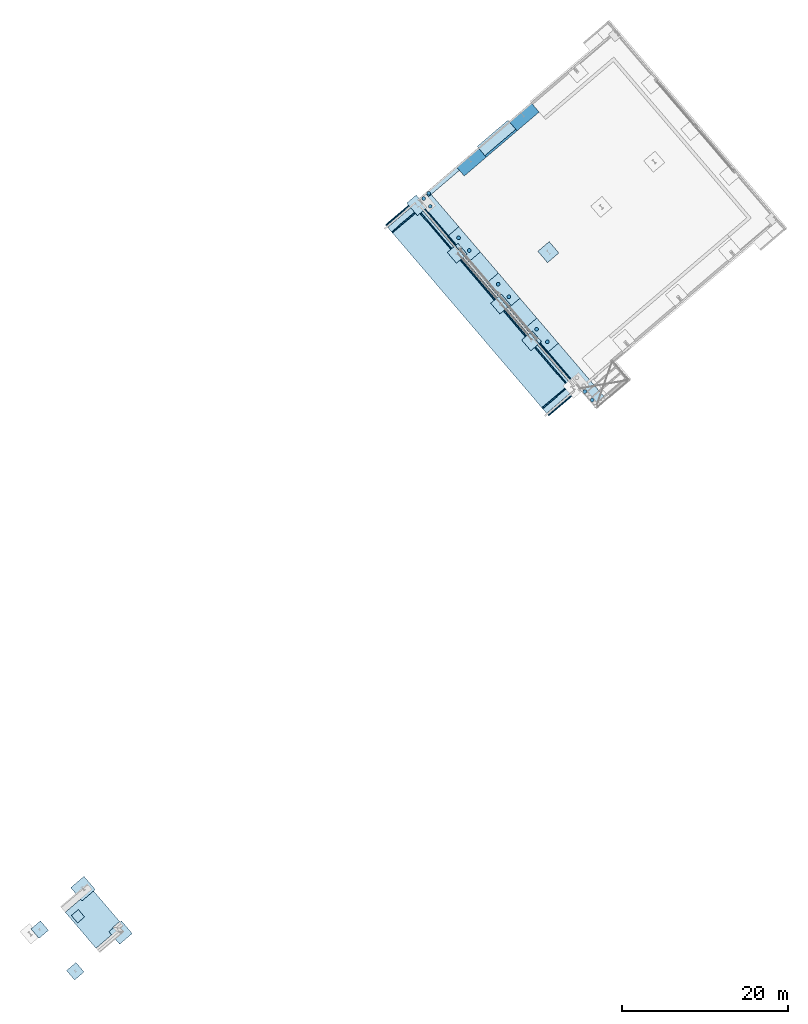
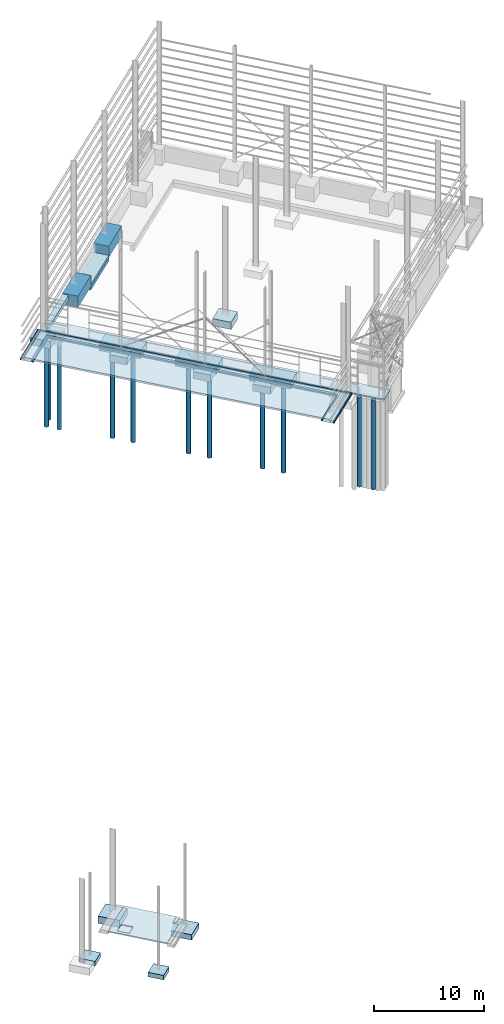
# One storey, part 35 of 41: 36 slabs, 1 opening.
"""IFC2X3 building model written with IfcOpenShell, lengths in millimetres."""

from ifc_helpers import new_model, entity, si_unit, converted_unit, derived_unit, direction, frame, frame_2d, origin, origin_2d_with_axis, place, context, subcontext, project, spatial, polyline, rectangle, circle, outline, extrude, material, layer, layer_set, layer_usage, type_object, element, save


model = new_model("IFC2X3")

# Units and contexts
model_context = context("Model", 3, precision=0.01, world=origin(), true_north=direction((6.123031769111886e-17, 1.0)))
body_context = subcontext(model_context, "Body", "Model", "MODEL_VIEW")
ifc_project = project(units=[si_unit("LENGTHUNIT", "METRE", prefix="MILLI"), si_unit("AREAUNIT", "SQUARE_METRE"), si_unit("VOLUMEUNIT", "CUBIC_METRE"), converted_unit("PLANEANGLEUNIT", "DEGREE", entity("IfcRatioMeasure", 0.017453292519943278), si_unit("PLANEANGLEUNIT", "RADIAN"), dimensions=[0, 0, 0, 0, 0, 0, 0]), si_unit("MASSUNIT", "GRAM", prefix="KILO"), derived_unit("MASSDENSITYUNIT", [(si_unit("MASSUNIT", "GRAM", prefix="KILO"), 1), (si_unit("LENGTHUNIT", "METRE"), -3)]), derived_unit("MOMENTOFINERTIAUNIT", [(si_unit("LENGTHUNIT", "METRE"), 4)]), si_unit("TIMEUNIT", "SECOND"), si_unit("FREQUENCYUNIT", "HERTZ"), si_unit("THERMODYNAMICTEMPERATUREUNIT", "DEGREE_CELSIUS"), derived_unit("THERMALTRANSMITTANCEUNIT", [(si_unit("MASSUNIT", "GRAM", prefix="KILO"), 1), (si_unit("THERMODYNAMICTEMPERATUREUNIT", "KELVIN"), -1), (si_unit("TIMEUNIT", "SECOND"), -3)]), derived_unit("VOLUMETRICFLOWRATEUNIT", [(si_unit("LENGTHUNIT", "METRE"), 3), (si_unit("TIMEUNIT", "SECOND"), -1)]), derived_unit("MASSFLOWRATEUNIT", [(si_unit("MASSUNIT", "GRAM", prefix="KILO"), 1), (si_unit("TIMEUNIT", "SECOND"), -1)]), derived_unit("ROTATIONALFREQUENCYUNIT", [(si_unit("TIMEUNIT", "SECOND"), -1)]), si_unit("ELECTRICCURRENTUNIT", "AMPERE"), si_unit("ELECTRICVOLTAGEUNIT", "VOLT"), si_unit("POWERUNIT", "WATT"), si_unit("FORCEUNIT", "NEWTON", prefix="KILO"), si_unit("ILLUMINANCEUNIT", "LUX"), si_unit("LUMINOUSFLUXUNIT", "LUMEN"), si_unit("LUMINOUSINTENSITYUNIT", "CANDELA"), derived_unit("USERDEFINED", [(si_unit("MASSUNIT", "GRAM", prefix="KILO"), -1), (si_unit("LENGTHUNIT", "METRE"), -2), (si_unit("TIMEUNIT", "SECOND"), 3), (si_unit("LUMINOUSFLUXUNIT", "LUMEN"), 1)]), derived_unit("SOUNDPOWERUNIT", [(si_unit("MASSUNIT", "GRAM", prefix="KILO"), 1), (si_unit("LENGTHUNIT", "METRE"), 2), (si_unit("TIMEUNIT", "SECOND"), -3)]), derived_unit("LINEARVELOCITYUNIT", [(si_unit("LENGTHUNIT", "METRE"), 1), (si_unit("TIMEUNIT", "SECOND"), -1)]), si_unit("PRESSUREUNIT", "PASCAL"), derived_unit("USERDEFINED", [(si_unit("LENGTHUNIT", "METRE"), -2), (si_unit("MASSUNIT", "GRAM", prefix="KILO"), 1), (si_unit("TIMEUNIT", "SECOND"), -2)]), derived_unit("LINEARFORCEUNIT", [(si_unit("MASSUNIT", "GRAM", prefix="KILO"), 1), (si_unit("LENGTHUNIT", "METRE"), 1), (si_unit("TIMEUNIT", "SECOND"), -2), (si_unit("LENGTHUNIT", "METRE"), -1)]), derived_unit("PLANARFORCEUNIT", [(si_unit("MASSUNIT", "GRAM", prefix="KILO"), 1), (si_unit("LENGTHUNIT", "METRE"), 1), (si_unit("TIMEUNIT", "SECOND"), -2), (si_unit("LENGTHUNIT", "METRE"), -2)])], contexts=[model_context])

# Site, building, storey
site_placement = place(None, frame((962.4174930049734, -6014.433753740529, 0.0), z_axis=(0.0, 0.0, 1.0), x_axis=(0.7601792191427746, 0.649713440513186, 0.0)))
site = spatial("IfcSite", under=ifc_project, at=site_placement, Name="Default", CompositionType="ELEMENT")
building_placement = place(site_placement, origin())
building = spatial("IfcBuilding", under=site, at=building_placement, CompositionType="ELEMENT")
storey_placement = place(building_placement, origin())
storey = spatial("IfcBuildingStorey", under=building, at=storey_placement, Name="Datum", CompositionType="ELEMENT", Elevation=0.0)

# Slabs
ifc_material_1 = material(Name="GHD-Concrete-Concrete_InSitu")
ifc_layer_1 = layer(ifc_material_1, 200.0)
ifc_layer_set_1 = layer_set([ifc_layer_1], Name="Floor:FL-GHD-Cast In Situ - Concrete 200")
ifc_layer_usage_1 = layer_usage(ifc_layer_set_1, "AXIS3", "POSITIVE", 0.0)
slab_type_1 = type_object("IfcSlabType", Name="Floor:FL-GHD-Cast In Situ - Concrete 200", PredefinedType="FLOOR", material=ifc_layer_set_1)
slab_1_placement = place(building_placement, origin())
element("IfcSlab", 1, at=slab_1_placement, inside=storey, type_object=slab_type_1, material=ifc_layer_usage_1, Name="Floor:FL-GHD-Cast In Situ - Concrete 200", ObjectType="Floor:FL-GHD-Cast In Situ - Concrete 200", PredefinedType="FLOOR", context=body_context, shape_type="SweptSolid", body=[
    extrude(rectangle(XDim=28081.99999999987, YDim=4213.499999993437, at=frame_2d((0.0, 8.640199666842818e-12), x_axis=(1.0, 0.0))), frame((151645.71020470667, -11114.92808212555, 0.0), z_axis=(0.0, 0.0, -1.0), x_axis=(0.0, 1.0, 0.0)), (0.0, 0.0, 1.0), 200.0),
])
slab_type_2 = type_object("IfcSlabType", Name="FT-GHD-Pad:750x4000x1800", PredefinedType="BASESLAB", material=ifc_material_1)
slab_2_placement = place(building_placement, origin())
element("IfcSlab", 2, at=slab_2_placement, inside=storey, type_object=slab_type_2, Name="FT-GHD-Pad:750x4000x1800", ObjectType="FT-GHD-Pad:750x4000x1800", PredefinedType="BASESLAB", context=body_context, shape_type="SweptSolid", body=[
    extrude(rectangle(XDim=1800.0000000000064, YDim=3999.9999999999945, at=frame_2d((-300.0000000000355, -101.44583333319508), x_axis=(1.0, 0.0))), frame((154913.96020471, -3969.0364154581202, -1120.0), z_axis=(0.0, 0.0, 1.0), x_axis=(-1.0, 0.0, 0.0)), (0.0, 0.0, 1.0), 749.9999999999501),
])
slab_type_3 = type_object("IfcSlabType", Name="FT-GHD-Pad:750x4000x1800", PredefinedType="BASESLAB", material=ifc_material_1)
slab_3_placement = place(building_placement, origin())
element("IfcSlab", 3, at=slab_3_placement, inside=storey, type_object=slab_type_3, Name="FT-GHD-Pad:750x4000x1800", ObjectType="FT-GHD-Pad:750x4000x1800", PredefinedType="BASESLAB", context=body_context, shape_type="SweptSolid", body=[
    extrude(rectangle(XDim=1799.9999999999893, YDim=3999.9999999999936, at=frame_2d((-300.00000000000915, -339.9999999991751), x_axis=(1.0, 0.0))), frame((154913.96020471, -11561.928082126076, -1120.0), z_axis=(0.0, 0.0, 1.0), x_axis=(-1.0, 0.0, 0.0)), (0.0, 0.0, 1.0), 749.9999999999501),
])
slab_type_4 = type_object("IfcSlabType", Name="FT-GHD-Pad:750x4000x1800", PredefinedType="BASESLAB", material=ifc_material_1)
slab_4_placement = place(building_placement, origin())
element("IfcSlab", 4, at=slab_4_placement, inside=storey, type_object=slab_type_4, Name="FT-GHD-Pad:750x4000x1800", ObjectType="FT-GHD-Pad:750x4000x1800", PredefinedType="BASESLAB", context=body_context, shape_type="SweptSolid", body=[
    extrude(rectangle(XDim=1800.0000000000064, YDim=3999.9999999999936, at=frame_2d((-300.0000000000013, 109.57890841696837), x_axis=(1.0, 0.0))), frame((154913.9602047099, -18261.236673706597, -1120.0), z_axis=(0.0, 0.0, 1.0), x_axis=(-1.0, 0.0, 0.0)), (0.0, 0.0, 1.0), 749.9999999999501),
])
slab_type_5 = type_object("IfcSlabType", Name="FT-GHD-Pad:1500x2000x800", PredefinedType="BASESLAB", material=ifc_material_1)
slab_5_placement = place(building_placement, origin())
element("IfcSlab", 5, at=slab_5_placement, inside=storey, type_object=slab_type_5, Name="FT-GHD-Pad:1500x2000x800", ObjectType="FT-GHD-Pad:1500x2000x800", PredefinedType="BASESLAB", context=body_context, shape_type="SweptSolid", body=[
    extrude(rectangle(XDim=1500.0000000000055, YDim=1999.9999999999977, at=frame_2d((213.49999999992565, -88.41666667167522), x_axis=(1.0, 0.0))), frame((154152.46020470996, 3304.1552512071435, -1170.0), z_axis=(0.0, 0.0, 1.0), x_axis=(-1.0, 0.0, 0.0)), (0.0, 0.0, 1.0), 799.99999999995),
])
slab_type_6 = type_object("IfcSlabType", Name="FT-GHD-Pad:1700x1700x800", PredefinedType="BASESLAB", material=ifc_material_1)
slab_6_placement = place(building_placement, origin())
element("IfcSlab", 6, at=slab_6_placement, inside=storey, type_object=slab_type_6, Name="FT-GHD-Pad:1700x1700x800", ObjectType="FT-GHD-Pad:1700x1700x800", PredefinedType="BASESLAB", context=body_context, shape_type="SweptSolid", body=[
    extrude(outline(polyline([(-991.3333333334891, -516.6666666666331), (282.6666666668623, -516.6666666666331), (282.6666666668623, 233.33333333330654), (708.6666666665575, 233.33333333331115), (708.6666666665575, 283.3333333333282), (-991.3333333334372, 283.33333333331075), (-991.3333333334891, -516.6666666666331)])), frame((154031.29353804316, -5021.928082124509, -886.666666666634), z_axis=(0.0, 1.0, 0.0), x_axis=(1.0, 0.0, 0.0)), (0.0, 0.0, 1.0), 1699.999999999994),
])
slab_type_7 = type_object("IfcSlabType", Name="FT-GHD-Pad:1700x1700x800", PredefinedType="BASESLAB", material=ifc_material_1)
slab_7_placement = place(building_placement, origin())
element("IfcSlab", 7, at=slab_7_placement, inside=storey, type_object=slab_type_7, Name="FT-GHD-Pad:1700x1700x800", ObjectType="FT-GHD-Pad:1700x1700x800", PredefinedType="BASESLAB", context=body_context, shape_type="SweptSolid", body=[
    extrude(outline(polyline([(-991.3333333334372, -516.6666666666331), (282.66666666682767, -516.6666666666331), (282.66666666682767, 233.33333333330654), (708.6666666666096, 233.33333333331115), (708.6666666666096, 283.3333333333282), (-991.3333333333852, 283.33333333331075), (-991.3333333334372, -516.6666666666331)])), frame((154031.29353804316, -13091.928082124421, -886.666666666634), z_axis=(0.0, 1.0, 0.0), x_axis=(1.0, 0.0, 0.0)), (0.0, 0.0, 1.0), 1699.9999999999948),
])
slab_type_8 = type_object("IfcSlabType", Name="FT-GHD-Pad:1700x1700x800", PredefinedType="BASESLAB", material=ifc_material_1)
slab_8_placement = place(building_placement, origin())
element("IfcSlab", 8, at=slab_8_placement, inside=storey, type_object=slab_type_8, Name="FT-GHD-Pad:1700x1700x800", ObjectType="FT-GHD-Pad:1700x1700x800", PredefinedType="BASESLAB", context=body_context, shape_type="SweptSolid", body=[
    extrude(outline(polyline([(-1006.0, -516.6666666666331), (312.0, -516.6666666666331), (312.0, 233.33333333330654), (694.0, 233.3333333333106), (694.0, 283.3333333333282), (-1006.0, 283.33333333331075), (-1006.0, -516.6666666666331)])), frame((154001.96020470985, -18892.078856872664, -886.666666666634), z_axis=(0.0, 1.0, 0.0), x_axis=(1.0, 0.0, 0.0)), (0.0, 0.0, 1.0), 1699.9999999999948),
])
ifc_layer_2 = layer(ifc_material_1, 270.0)
ifc_layer_set_2 = layer_set([ifc_layer_2], Name="Floor:Edge Strip 270")
ifc_layer_usage_2 = layer_usage(ifc_layer_set_2, "AXIS3", "POSITIVE", 0.0)
slab_type_9 = type_object("IfcSlabType", Name="Floor:Edge Strip 270", PredefinedType="FLOOR", material=ifc_layer_set_2)
slab_9_placement = place(building_placement, origin())
element("IfcSlab", 9, at=slab_9_placement, inside=storey, type_object=slab_type_9, material=ifc_layer_usage_2, Name="Floor:Edge Strip 270", ObjectType="Floor:Edge Strip 270", PredefinedType="FLOOR", context=body_context, shape_type="SweptSolid", body=[
    extrude(outline(polyline([(-15074.0, -2338.7499999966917), (-14774.0, -2338.7499999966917), (-14774.0, 2188.749999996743), (14774.0, 2188.749999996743), (14774.0, -2338.7499999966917), (15074.0, -2338.7499999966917), (15074.0, 2488.749999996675), (-15074.0, 2488.749999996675), (-15074.0, -2338.7499999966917)])), frame((151877.71020470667, -11114.92808212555, -100.0), z_axis=(0.0, 0.0, -1.0), x_axis=(0.0, 1.0, 0.0)), (0.0, 0.0, 1.0), 270.0),
])
ifc_layer_3 = layer(ifc_material_1, 170.0)
ifc_layer_set_3 = layer_set([ifc_layer_3], Name="Floor:Edge Strip 170")
ifc_layer_usage_3 = layer_usage(ifc_layer_set_3, "AXIS3", "POSITIVE", 0.0)
slab_type_10 = type_object("IfcSlabType", Name="Floor:Edge Strip 170", PredefinedType="FLOOR", material=ifc_layer_set_3)
slab_10_placement = place(building_placement, origin())
element("IfcSlab", 10, at=slab_10_placement, inside=storey, type_object=slab_type_10, material=ifc_layer_usage_3, Name="Floor:Edge Strip 170", ObjectType="Floor:Edge Strip 170", PredefinedType="FLOOR", context=body_context, shape_type="SweptSolid", body=[
    extrude(outline(polyline([(13891.0, -2069.2499999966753), (14041.0, -2069.2499999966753), (14041.0, 2144.249999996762), (-14041.0, 2144.249999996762), (-14041.0, -2069.2499999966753), (-13891.0, -2069.2499999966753), (-13891.0, 1994.2499999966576), (13891.0, 1994.2499999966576), (13891.0, -2069.2499999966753)])), frame((151608.21020470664, -11114.92808212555, -200.0), z_axis=(0.0, 0.0, -1.0), x_axis=(0.0, 1.0, 0.0)), (0.0, 0.0, 1.0), 170.0),
])
ifc_layer_usage_4 = layer_usage(ifc_layer_set_3, "AXIS3", "POSITIVE", 0.0)
slab_type_11 = type_object("IfcSlabType", Name="Floor:Edge Strip 170", PredefinedType="FLOOR", material=ifc_layer_set_3)
slab_11_placement = place(building_placement, origin())
element("IfcSlab", 11, at=slab_11_placement, inside=storey, type_object=slab_type_11, material=ifc_layer_usage_4, Name="Floor:Edge Strip 170", ObjectType="Floor:Edge Strip 170", PredefinedType="FLOOR", context=body_context, shape_type="SweptSolid", body=[
    extrude(outline(polyline([(15074.0, -2438.7499999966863), (15174.0, -2438.7499999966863), (15174.0, 2488.749999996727), (-15174.0, 2488.749999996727), (-15174.0, -2438.7499999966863), (-15074.0, -2438.7499999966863), (-15074.0, 2388.7499999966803), (15074.0, 2388.7499999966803), (15074.0, -2438.7499999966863)])), frame((151977.71020470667, -11114.928082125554, -200.0), z_axis=(0.0, 0.0, -1.0), x_axis=(0.0, 1.0, 0.0)), (0.0, 0.0, 1.0), 170.0),
])
ifc_layer_4 = layer(ifc_material_1, 370.0)
ifc_layer_set_4 = layer_set([ifc_layer_4], Name="Floor:Edge Strip 370")
ifc_layer_usage_5 = layer_usage(ifc_layer_set_4, "AXIS3", "POSITIVE", 0.0)
slab_type_12 = type_object("IfcSlabType", Name="Floor:Edge Strip 370", PredefinedType="FLOOR", material=ifc_layer_set_4)
slab_12_placement = place(storey_placement, origin())
element("IfcSlab", 12, at=slab_12_placement, inside=storey, type_object=slab_type_12, material=ifc_layer_usage_5, Name="Floor:Edge Strip 370", ObjectType="Floor:Edge Strip 370", PredefinedType="FLOOR", context=body_context, shape_type="SweptSolid", body=[
    extrude(outline(polyline([(14041.0, -2150.7499999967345), (14774.0, -2150.7499999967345), (14774.0, 2376.7499999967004), (-14774.0, 2376.7499999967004), (-14774.0, -2150.7499999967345), (-14041.0, -2150.7499999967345), (-14041.0, 1924.7499999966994), (14041.0, 1924.7499999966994), (14041.0, -2150.7499999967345)])), frame((151689.7102047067, -11114.928082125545, 0.0), z_axis=(0.0, 0.0, -1.0), x_axis=(0.0, 1.0, 0.0)), (0.0, 0.0, 1.0), 370.0),
])
slab_type_13 = type_object("IfcSlabType", Name="FT-GHD-Pad:1800x1800x800", PredefinedType="BASESLAB", material=ifc_material_1)
slab_13_placement = place(building_placement, origin())
element("IfcSlab", 13, at=slab_13_placement, inside=storey, type_object=slab_type_13, Name="FT-GHD-Pad:1800x1800x800", ObjectType="FT-GHD-Pad:1800x1800x800", PredefinedType="BASESLAB", context=body_context, shape_type="SweptSolid", body=[
    extrude(rectangle(XDim=1799.9999999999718, YDim=1799.999999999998, at=origin_2d_with_axis()), frame((162338.96020470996, -11221.928082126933, -1086.0), z_axis=(0.0, 0.0, 1.0), x_axis=(-1.0, 0.0, 0.0)), (0.0, 0.0, 1.0), 799.99999999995),
])
slab_type_14 = type_object("IfcSlabType", Name="FT-GHD-Pad:2000x3500x1000", PredefinedType="BASESLAB", material=ifc_material_1)
slab_14_placement = place(building_placement, origin())
element("IfcSlab", 14, at=slab_14_placement, inside=storey, type_object=slab_type_14, Name="FT-GHD-Pad:2000x3500x1000", ObjectType="FT-GHD-Pad:2000x3500x1000", PredefinedType="BASESLAB", context=body_context, shape_type="SweptSolid", body=[
    extrude(rectangle(XDim=1499.9999999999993, YDim=3500.0000000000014, at=frame_2d((2.8421709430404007e-13, -1.7280399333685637e-11), x_axis=(1.0, 0.0))), frame((162338.96020471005, 3112.0719178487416, -1450.0), z_axis=(0.0, 0.0, 1.0), x_axis=(0.0, -1.0, 0.0)), (0.0, 0.0, 1.0), 1249.9999999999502),
])
slab_type_15 = type_object("IfcSlabType", Name="FT-GHD-Pad:2000x3500x1000", PredefinedType="BASESLAB", material=ifc_material_1)
slab_15_placement = place(building_placement, origin())
element("IfcSlab", 15, at=slab_15_placement, inside=storey, type_object=slab_type_15, Name="FT-GHD-Pad:2000x3500x1000", ObjectType="FT-GHD-Pad:2000x3500x1000", PredefinedType="BASESLAB", context=body_context, shape_type="SweptSolid", body=[
    extrude(rectangle(XDim=1499.9999999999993, YDim=3500.0000000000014, at=frame_2d((2.8421709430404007e-13, -1.7280399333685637e-11), x_axis=(1.0, 0.0))), frame((170738.9602047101, 3112.0719178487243, -1450.0), z_axis=(0.0, 0.0, 1.0), x_axis=(0.0, -1.0, 0.0)), (0.0, 0.0, 1.0), 1249.9999999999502),
])
ifc_material_2 = material(Name="Concrete_Cast in Situ")
slab_type_16 = type_object("IfcSlabType", Name="FT-GHD-Pile-Round:450 BORED PILE", PredefinedType="BASESLAB", material=ifc_material_2)
slab_16_placement = place(building_placement, origin())
element("IfcSlab", 16, at=slab_16_placement, inside=storey, type_object=slab_type_16, Name="FT-GHD-Pile-Round:450 BORED PILE", ObjectType="FT-GHD-Pile-Round:450 BORED PILE", PredefinedType="BASESLAB", context=body_context, shape_type="SweptSolid", body=[
    extrude(circle(Radius=225.00000000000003, at=origin_2d_with_axis()), frame((155213.96020470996, -2867.590582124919, -11100.0)), (0.0, 0.0, 1.0), 9980.000000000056),
])
slab_type_17 = type_object("IfcSlabType", Name="FT-GHD-Pile-Round:450 BORED PILE", PredefinedType="BASESLAB", material=ifc_material_2)
slab_17_placement = place(building_placement, origin())
element("IfcSlab", 17, at=slab_17_placement, inside=storey, type_object=slab_type_17, Name="FT-GHD-Pile-Round:450 BORED PILE", ObjectType="FT-GHD-Pile-Round:450 BORED PILE", PredefinedType="BASESLAB", context=body_context, shape_type="SweptSolid", body=[
    extrude(circle(Radius=225.00000000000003, at=frame_2d((5.6335584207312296e-27, -1.0828671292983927e-12), x_axis=(1.0, 0.0))), frame((155213.96020470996, -4867.590582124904, -11100.0)), (0.0, 0.0, 1.0), 9980.000000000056),
])
slab_type_18 = type_object("IfcSlabType", Name="FT-GHD-Pile-Round:450 BORED PILE", PredefinedType="BASESLAB", material=ifc_material_2)
slab_18_placement = place(building_placement, origin())
element("IfcSlab", 18, at=slab_18_placement, inside=storey, type_object=slab_type_18, Name="FT-GHD-Pile-Round:450 BORED PILE", ObjectType="FT-GHD-Pile-Round:450 BORED PILE", PredefinedType="BASESLAB", context=body_context, shape_type="SweptSolid", body=[
    extrude(circle(Radius=225.00000000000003, at=origin_2d_with_axis()), frame((155213.96020470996, -10221.928082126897, -11100.0)), (0.0, 0.0, 1.0), 9980.000000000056),
])
slab_type_19 = type_object("IfcSlabType", Name="FT-GHD-Pile-Round:450 BORED PILE", PredefinedType="BASESLAB", material=ifc_material_2)
slab_19_placement = place(building_placement, origin())
element("IfcSlab", 19, at=slab_19_placement, inside=storey, type_object=slab_type_19, Name="FT-GHD-Pile-Round:450 BORED PILE", ObjectType="FT-GHD-Pile-Round:450 BORED PILE", PredefinedType="BASESLAB", context=body_context, shape_type="SweptSolid", body=[
    extrude(circle(Radius=225.00000000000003, at=origin_2d_with_axis()), frame((155213.96020470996, -12221.928082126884, -11100.0)), (0.0, 0.0, 1.0), 9980.000000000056),
])
slab_type_20 = type_object("IfcSlabType", Name="FT-GHD-Pile-Round:450 BORED PILE", PredefinedType="BASESLAB", material=ifc_material_2)
slab_20_placement = place(building_placement, origin())
element("IfcSlab", 20, at=slab_20_placement, inside=storey, type_object=slab_type_20, Name="FT-GHD-Pile-Round:450 BORED PILE", ObjectType="FT-GHD-Pile-Round:450 BORED PILE", PredefinedType="BASESLAB", context=body_context, shape_type="SweptSolid", body=[
    extrude(circle(Radius=225.00000000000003, at=origin_2d_with_axis()), frame((155213.96020470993, -17370.815582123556, -11100.0)), (0.0, 0.0, 1.0), 9980.000000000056),
])
slab_type_21 = type_object("IfcSlabType", Name="FT-GHD-Pile-Round:450 BORED PILE", PredefinedType="BASESLAB", material=ifc_material_2)
slab_21_placement = place(building_placement, origin())
element("IfcSlab", 21, at=slab_21_placement, inside=storey, type_object=slab_type_21, Name="FT-GHD-Pile-Round:450 BORED PILE", ObjectType="FT-GHD-Pile-Round:450 BORED PILE", PredefinedType="BASESLAB", context=body_context, shape_type="SweptSolid", body=[
    extrude(circle(Radius=225.00000000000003, at=origin_2d_with_axis()), frame((155213.96020470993, -19370.81558212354, -11100.0)), (0.0, 0.0, 1.0), 9980.000000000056),
])
slab_type_22 = type_object("IfcSlabType", Name="FT-GHD-Pile-Round:450 BORED PILE", PredefinedType="BASESLAB", material=ifc_material_2)
slab_22_placement = place(storey_placement, origin())
element("IfcSlab", 22, at=slab_22_placement, inside=storey, type_object=slab_type_22, Name="FT-GHD-Pile-Round:450 BORED PILE", ObjectType="FT-GHD-Pile-Round:450 BORED PILE", PredefinedType="BASESLAB", context=body_context, shape_type="SweptSolid", body=[
    extrude(circle(Radius=225.00000000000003, at=frame_2d((5.6335584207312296e-27, -1.0828671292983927e-12), x_axis=(1.0, 0.0))), frame((155098.33794747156, 2237.0719178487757, -11250.0)), (0.0, 0.0, 1.0), 9680.000000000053),
])
ifc_material_3 = material(Name="<Unnamed>")
ifc_layer_5 = layer(ifc_material_3, 250.00000000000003)
ifc_layer_set_5 = layer_set([ifc_layer_5], Name="Foundation Slab:PH-Foundation Slab (250)")
ifc_layer_usage_6 = layer_usage(ifc_layer_set_5, "AXIS3", "POSITIVE", 0.0)
slab_type_23 = type_object("IfcSlabType", Name="Foundation Slab:PH-Foundation Slab (250)", PredefinedType="BASESLAB", material=ifc_layer_set_5)
slab_23_placement = place(building_placement, origin())
element("IfcSlab", 23, at=slab_23_placement, inside=storey, type_object=slab_type_23, material=ifc_layer_usage_6, Name="Foundation Slab:PH-Foundation Slab (250)", ObjectType="Foundation Slab:PH-Foundation Slab (250)", PredefinedType="BASESLAB", context=body_context, shape_type="SweptSolid", body=[
    extrude(rectangle(XDim=1698.0000000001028, YDim=4900.000000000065, at=frame_2d((2.8421709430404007e-13, 0.0), x_axis=(1.0, 0.0))), frame((166538.96020471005, 3211.071917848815, -1200.0), z_axis=(0.0, 0.0, -1.0), x_axis=(0.0, 1.0, 0.0)), (0.0, 0.0, 1.0), 250.00000000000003),
])
ifc_layer_6 = layer(ifc_material_3, 450.00000000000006)
ifc_layer_set_6 = layer_set([ifc_layer_6], Name="Foundation Slab:Strip Footing (450)")
ifc_layer_usage_7 = layer_usage(ifc_layer_set_6, "AXIS3", "POSITIVE", 0.0)
slab_type_24 = type_object("IfcSlabType", Name="Foundation Slab:Strip Footing (450)", PredefinedType="BASESLAB", material=ifc_layer_set_6)
slab_24_placement = place(building_placement, origin())
element("IfcSlab", 24, at=slab_24_placement, inside=storey, type_object=slab_type_24, material=ifc_layer_usage_7, Name="Foundation Slab:Strip Footing (450)", ObjectType="Foundation Slab:Strip Footing (450)", PredefinedType="BASESLAB", context=body_context, shape_type="SweptSolid", body=[
    extrude(rectangle(XDim=600.0, YDim=4919.000000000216, at=frame_2d((-2.8421709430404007e-13, 1.7280399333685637e-11), x_axis=(1.0, 0.0))), frame((158129.4602047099, 3562.0719178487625, -286.0), z_axis=(0.0, 0.0, -1.0), x_axis=(0.0, 1.0, 0.0)), (0.0, 0.0, 1.0), 449.99999999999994),
])
slab_type_25 = type_object("IfcSlabType", Name="FT-GHD-Pile-Round:450 BORED PILE", PredefinedType="BASESLAB", material=ifc_material_2)
slab_25_placement = place(storey_placement, origin())
element("IfcSlab", 25, at=slab_25_placement, inside=storey, type_object=slab_type_25, Name="FT-GHD-Pile-Round:450 BORED PILE", ObjectType="FT-GHD-Pile-Round:450 BORED PILE", PredefinedType="BASESLAB", context=body_context, shape_type="SweptSolid", body=[
    extrude(circle(Radius=225.00000000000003, at=frame_2d((-1.0578773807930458e-27, -5.414335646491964e-13), x_axis=(1.0, 0.0))), frame((155098.3379474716, 3487.071917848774, -11250.0)), (0.0, 0.0, 1.0), 9680.000000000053),
])
slab_type_26 = type_object("IfcSlabType", Name="FT-GHD-Pile-Round:450 BORED PILE", PredefinedType="BASESLAB", material=ifc_material_2)
slab_26_placement = place(storey_placement, origin())
element("IfcSlab", 26, at=slab_26_placement, inside=storey, type_object=slab_type_26, Name="FT-GHD-Pile-Round:450 BORED PILE", ObjectType="FT-GHD-Pile-Round:450 BORED PILE", PredefinedType="BASESLAB", context=body_context, shape_type="SweptSolid", body=[
    extrude(circle(Radius=225.00000000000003, at=frame_2d((-1.0578773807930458e-27, -5.414335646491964e-13), x_axis=(1.0, 0.0))), frame((155974.8840991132, 3562.071917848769, -11068.0)), (0.0, 0.0, 1.0), 10000.000000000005),
])
ifc_layer_7 = layer(ifc_material_3, 400.0)
ifc_layer_set_7 = layer_set([ifc_layer_7], Name="Foundation Slab:PH-Foundation Slab (400)")
ifc_layer_usage_8 = layer_usage(ifc_layer_set_7, "AXIS3", "POSITIVE", 0.0)
slab_type_27 = type_object("IfcSlabType", Name="Foundation Slab:PH-Foundation Slab (400)", PredefinedType="BASESLAB", material=ifc_layer_set_7)
slab_27_placement = place(building_placement, origin())
element("IfcSlab", 27, at=slab_27_placement, inside=storey, type_object=slab_type_27, material=ifc_layer_usage_8, Name="Foundation Slab:PH-Foundation Slab (400)", ObjectType="Foundation Slab:PH-Foundation Slab (400)", PredefinedType="BASESLAB", context=body_context, shape_type="SweptSolid", body=[
    extrude(rectangle(XDim=250.00000000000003, YDim=4900.000000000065, at=frame_2d((-2.7000623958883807e-13, 0.0), x_axis=(1.0, 0.0))), frame((166538.96020471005, 2487.071917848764, -1450.0), z_axis=(0.0, 0.0, -1.0), x_axis=(0.0, 1.0, 0.0)), (0.0, 0.0, 1.0), 400.0),
])
slab_type_28 = type_object("IfcSlabType", Name="FT-GHD-Pile-Round:450 BORED PILE", PredefinedType="BASESLAB", material=ifc_material_2)
slab_28_placement = place(storey_placement, origin())
element("IfcSlab", 28, at=slab_28_placement, inside=storey, type_object=slab_type_28, Name="FT-GHD-Pile-Round:450 BORED PILE", ObjectType="FT-GHD-Pile-Round:450 BORED PILE", PredefinedType="BASESLAB", context=body_context, shape_type="SweptSolid", body=[
    extrude(circle(Radius=225.00000000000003, at=frame_2d((-5.722691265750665e-13, 110.00000000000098), x_axis=(1.0, 0.0))), frame((154764.96020470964, -26996.928082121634, -10600.0)), (0.0, 0.0, 1.0), 9950.000000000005),
])
slab_type_29 = type_object("IfcSlabType", Name="FT-GHD-Pad:2000x2000x600", PredefinedType="BASESLAB", material=ifc_material_1)
slab_29_placement = place(storey_placement, origin())
element("IfcSlab", 29, at=slab_29_placement, inside=storey, type_object=slab_type_29, Name="FT-GHD-Pad:2000x2000x600", ObjectType="FT-GHD-Pad:2000x2000x600", PredefinedType="BASESLAB", context=body_context, shape_type="SweptSolid", body=[
    extrude(rectangle(XDim=2000.0000000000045, YDim=1999.999999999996, at=origin_2d_with_axis()), frame((69704.46020470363, -40111.92808213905, -970.0), z_axis=(0.0, 0.0, 1.0), x_axis=(-1.0, 0.0, 0.0)), (0.0, 0.0, 1.0), 599.9999999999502),
])
slab_type_30 = type_object("IfcSlabType", Name="FT-GHD-Pad:1500x1500x500", PredefinedType="BASESLAB", material=ifc_material_1)
slab_30_placement = place(storey_placement, origin())
element("IfcSlab", 30, at=slab_30_placement, inside=storey, type_object=slab_type_30, Name="FT-GHD-Pad:1500x1500x500", ObjectType="FT-GHD-Pad:1500x1500x500", PredefinedType="BASESLAB", context=body_context, shape_type="SweptSolid", body=[
    extrude(rectangle(XDim=1499.9999999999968, YDim=1499.9999999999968, at=frame_2d((0.0, 4.320099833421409e-12), x_axis=(1.0, 0.0))), frame((62519.460204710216, -40111.92808213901, -870.0), z_axis=(0.0, 0.0, 1.0), x_axis=(-1.0, 0.0, 0.0)), (0.0, 0.0, 1.0), 499.99999999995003),
])
slab_type_31 = type_object("IfcSlabType", Name="FT-GHD-Pad:1500x1500x500", PredefinedType="BASESLAB", material=ifc_material_1)
slab_31_placement = place(storey_placement, origin())
element("IfcSlab", 31, at=slab_31_placement, inside=storey, type_object=slab_type_31, Name="FT-GHD-Pad:1500x1500x500", ObjectType="FT-GHD-Pad:1500x1500x500", PredefinedType="BASESLAB", context=body_context, shape_type="SweptSolid", body=[
    extrude(rectangle(XDim=1499.9999999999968, YDim=1499.9999999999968, at=frame_2d((-202.5000000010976, 19.416666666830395), x_axis=(1.0, 0.0))), frame((62316.960204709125, -33479.511415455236, -870.0), z_axis=(0.0, 0.0, 1.0), x_axis=(-1.0, 0.0, 0.0)), (0.0, 0.0, 1.0), 499.99999999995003),
])
slab_type_32 = type_object("IfcSlabType", Name="FT-GHD-Pad:2100x2100x800", PredefinedType="BASESLAB", material=ifc_material_1)
slab_32_placement = place(storey_placement, origin())
element("IfcSlab", 32, at=slab_32_placement, inside=storey, type_object=slab_type_32, Name="FT-GHD-Pad:2100x2100x800", ObjectType="FT-GHD-Pad:2100x2100x800", PredefinedType="BASESLAB", context=body_context, shape_type="SweptSolid", body=[
    extrude(rectangle(XDim=2099.999999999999, YDim=2099.999999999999, at=frame_2d((-4.320099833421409e-12, 0.0), x_axis=(1.0, 0.0))), frame((69704.46020470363, -33132.428082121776, -1170.0), z_axis=(0.0, 0.0, 1.0), x_axis=(-1.0, 0.0, 0.0)), (0.0, 0.0, 1.0), 799.99999999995),
])

# Slab, opening
ifc_layer_8 = layer(ifc_material_1, 120.0)
ifc_layer_set_8 = layer_set([ifc_layer_8], Name="Floor:FL-GHD-Cast In Situ - Concrete 120")
ifc_layer_usage_9 = layer_usage(ifc_layer_set_8, "AXIS3", "POSITIVE", 0.0)
slab_type_33 = type_object("IfcSlabType", Name="Floor:FL-GHD-Cast In Situ - Concrete 120", PredefinedType="FLOOR", material=ifc_layer_set_8)
slab_33_placement = place(building_placement, frame((66222.46020470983, -39624.92808213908, -120.0)))
slab_33 = element("IfcSlab", 33, at=slab_33_placement, inside=storey, type_object=slab_type_33, material=ifc_layer_usage_9, Name="Floor:FL-GHD-Cast In Situ - Concrete 120", ObjectType="Floor:FL-GHD-Cast In Situ - Concrete 120", PredefinedType="FLOOR", context=body_context, shape_type="SweptSolid", body=[
    extrude(outline(polyline([(2134.195603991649, -2857.2000000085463), (2134.195603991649, 2857.200000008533), (-2134.195603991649, 2857.2000000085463), (-2134.195603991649, -2264.699999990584), (-1047.8043960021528, -2264.699999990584), (-1047.8043960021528, -2857.2000000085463), (2134.195603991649, -2857.2000000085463)])), frame((2134.195603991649, 2857.2000000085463, 120.0), z_axis=(0.0, 0.0, -1.0), x_axis=(-1.0, 0.0, 0.0)), (0.0, 0.0, 1.0), 120.0),
])
opening_placement = place(slab_33_placement, frame((855.0, 4352.200000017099, 120.0)))
element("IfcOpeningElement", 34, at=opening_placement, cuts=slab_33, Name="Floor:FL-GHD-Cast In Situ - Concrete 120:2", ObjectType="Opening", context=body_context, shape_type="SweptSolid", body=[
    extrude(rectangle(XDim=1109.9999999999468, YDim=1164.3999999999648, at=origin_2d_with_axis()), frame((0.0, 0.0, 0.0), z_axis=(0.0, 0.0, -1.0), x_axis=(-1.0, 0.0, 0.0)), (0.0, 0.0, 1.0), 120.0),
])

# Slabs
ifc_layer_usage_10 = layer_usage(ifc_layer_set_8, "AXIS3", "POSITIVE", 0.0)
slab_type_34 = type_object("IfcSlabType", Name="Floor:FL-GHD-Cast In Situ - Concrete 120", PredefinedType="FLOOR", material=ifc_layer_set_8)
slab_34_placement = place(building_placement, origin())
element("IfcSlab", 35, at=slab_34_placement, inside=storey, type_object=slab_type_34, material=ifc_layer_usage_10, Name="Floor:FL-GHD-Cast In Situ - Concrete 120", ObjectType="Floor:FL-GHD-Cast In Situ - Concrete 120", PredefinedType="FLOOR", context=body_context, shape_type="SweptSolid", body=[
    extrude(rectangle(XDim=1164.3999999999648, YDim=1109.9999999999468, at=frame_2d((2.1600499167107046e-12, 4.376943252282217e-12), x_axis=(1.0, 0.0))), frame((67077.4602047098, -35272.72808212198, -50.0), z_axis=(0.0, 0.0, -1.0), x_axis=(0.0, 1.0, 0.0)), (0.0, 0.0, 1.0), 120.0),
])
ifc_layer_usage_11 = layer_usage(ifc_layer_set_3, "AXIS3", "POSITIVE", 0.0)
slab_type_35 = type_object("IfcSlabType", Name="Floor:Edge Strip 170", PredefinedType="FLOOR", material=ifc_layer_set_3)
slab_35_placement = place(storey_placement, origin())
element("IfcSlab", 36, at=slab_35_placement, inside=storey, type_object=slab_type_35, material=ifc_layer_usage_11, Name="Floor:Edge Strip 170", ObjectType="Floor:Edge Strip 170", PredefinedType="FLOOR", context=body_context, shape_type="SweptSolid", body=[
    extrude(outline(polyline([(-8919.16666666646, -653.0), (21073.833333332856, -653.0), (21073.833333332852, 1151.0), (-12154.666666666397, 1151.0), (-12154.666666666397, -498.0), (-8919.16666666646, -498.0), (-8919.16666666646, -653.0)])), frame((154962.96020470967, -17213.761415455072, -200.0), z_axis=(0.0, 0.0, -1.0), x_axis=(0.0, 1.0, 0.0)), (0.0, 0.0, 1.0), 170.0),
])
slab_type_36 = type_object("IfcSlabType", Name="FT-GHD-Pile-Round:450 BORED PILE", PredefinedType="BASESLAB", material=ifc_material_2)
slab_36_placement = place(storey_placement, origin())
element("IfcSlab", 37, at=slab_36_placement, inside=storey, type_object=slab_type_36, Name="FT-GHD-Pile-Round:450 BORED PILE", ObjectType="FT-GHD-Pile-Round:450 BORED PILE", PredefinedType="BASESLAB", context=body_context, shape_type="SweptSolid", body=[
    extrude(circle(Radius=225.00000000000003, at=origin_2d_with_axis()), frame((154764.96020470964, -28226.928082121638, -10600.0)), (0.0, 0.0, 1.0), 9950.000000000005),
])

save(model, "model.ifc")
